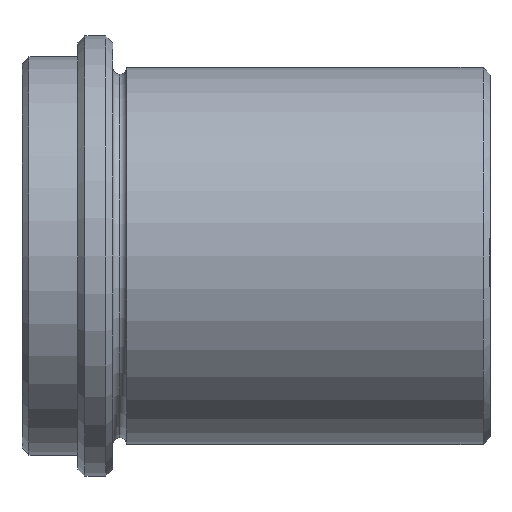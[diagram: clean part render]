
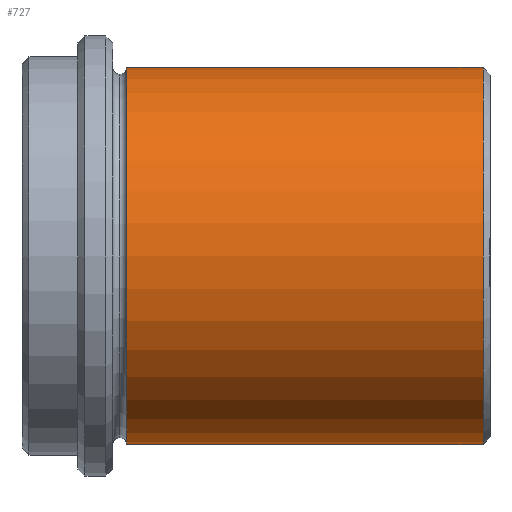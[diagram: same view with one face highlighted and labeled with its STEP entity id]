
A CAD part, left-side view. The second image highlights one B-rep face of the part: STEP entity #727.
In plain terms, the highlighted cylindrical face has radius 27 mm (diameter 54 mm), a partial arc.
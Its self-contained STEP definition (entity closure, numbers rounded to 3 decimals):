
#559=CARTESIAN_POINT('Vertex',(0.,1.,27.)) ;
#566=CARTESIAN_POINT('Vertex',(0.,1.,-27.)) ;
#595=CARTESIAN_POINT('Axis2P3D Location',(0.,1.,0.)) ;
#599=CARTESIAN_POINT('Vertex',(-27.,1.,0.)) ;
#602=CARTESIAN_POINT('Axis2P3D Location',(0.,1.,0.)) ;
#667=CARTESIAN_POINT('Line Origine',(0.,0.,-27.)) ;
#671=CARTESIAN_POINT('Vertex',(0.,52.,-27.)) ;
#685=CARTESIAN_POINT('Vertex',(0.,52.,27.)) ;
#688=CARTESIAN_POINT('Line Origine',(0.,0.,27.)) ;
#702=CARTESIAN_POINT('Axis2P3D Location',(0.,0.,0.)) ;
#707=CARTESIAN_POINT('Axis2P3D Location',(0.,52.,0.)) ;
#711=CARTESIAN_POINT('Vertex',(-27.,52.,0.)) ;
#714=CARTESIAN_POINT('Axis2P3D Location',(0.,52.,0.)) ;
#596=DIRECTION('Axis2P3D Direction',(-0.,1.,0.)) ;
#603=DIRECTION('Axis2P3D Direction',(-0.,1.,0.)) ;
#668=DIRECTION('Vector Direction',(0.,1.,0.)) ;
#689=DIRECTION('Vector Direction',(0.,1.,0.)) ;
#703=DIRECTION('Axis2P3D Direction',(0.,1.,0.)) ;
#704=DIRECTION('Axis2P3D XDirection',(0.,0.,-1.)) ;
#708=DIRECTION('Axis2P3D Direction',(0.,1.,0.)) ;
#715=DIRECTION('Axis2P3D Direction',(0.,1.,0.)) ;
#597=AXIS2_PLACEMENT_3D('Circle Axis2P3D',#595,#596,$) ;
#604=AXIS2_PLACEMENT_3D('Circle Axis2P3D',#602,#603,$) ;
#705=AXIS2_PLACEMENT_3D('Cylinder Axis2P3D',#702,#703,#704) ;
#709=AXIS2_PLACEMENT_3D('Circle Axis2P3D',#707,#708,$) ;
#716=AXIS2_PLACEMENT_3D('Circle Axis2P3D',#714,#715,$) ;
#720=ORIENTED_EDGE('',*,*,#692,.T.) ;
#721=ORIENTED_EDGE('',*,*,#713,.T.) ;
#722=ORIENTED_EDGE('',*,*,#718,.T.) ;
#723=ORIENTED_EDGE('',*,*,#673,.T.) ;
#724=ORIENTED_EDGE('',*,*,#606,.F.) ;
#725=ORIENTED_EDGE('',*,*,#601,.F.) ;
#669=VECTOR('Line Direction',#668,1.) ;
#690=VECTOR('Line Direction',#689,1.) ;
#727=ADVANCED_FACE('CF 439 40x67',(#726),#706,.T.) ;
#598=CIRCLE('generated circle',#597,27.) ;
#605=CIRCLE('generated circle',#604,27.) ;
#710=CIRCLE('generated circle',#709,27.) ;
#717=CIRCLE('generated circle',#716,27.) ;
#706=CYLINDRICAL_SURFACE('generated cylinder',#705,27.) ;
#601=EDGE_CURVE('',#560,#600,#598,.F.) ;
#606=EDGE_CURVE('',#600,#567,#605,.F.) ;
#673=EDGE_CURVE('',#672,#567,#670,.F.) ;
#692=EDGE_CURVE('',#560,#686,#691,.T.) ;
#713=EDGE_CURVE('',#686,#712,#710,.F.) ;
#718=EDGE_CURVE('',#712,#672,#717,.F.) ;
#719=EDGE_LOOP('',(#720,#721,#722,#723,#724,#725)) ;
#726=FACE_OUTER_BOUND('',#719,.T.) ;
#670=LINE('Line',#667,#669) ;
#691=LINE('Line',#688,#690) ;
#560=VERTEX_POINT('',#559) ;
#567=VERTEX_POINT('',#566) ;
#600=VERTEX_POINT('',#599) ;
#672=VERTEX_POINT('',#671) ;
#686=VERTEX_POINT('',#685) ;
#712=VERTEX_POINT('',#711) ;
